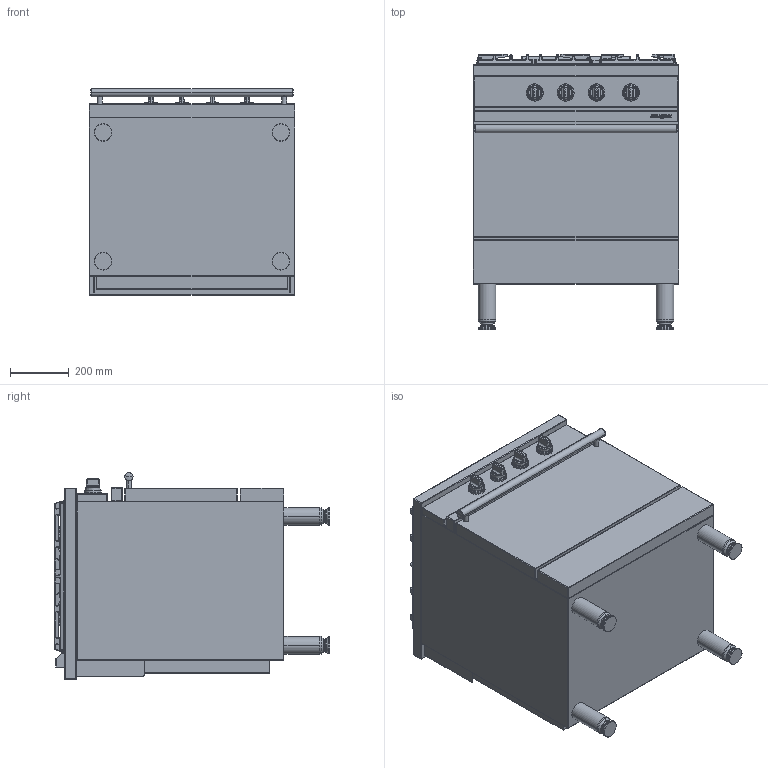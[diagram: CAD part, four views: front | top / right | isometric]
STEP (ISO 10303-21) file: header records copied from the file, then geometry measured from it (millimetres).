
FILE_DESCRIPTION((''),'2;1');
FILE_NAME('CG731_EXPORT_STEP_ASM','2017-11-22T',('r.avril'),(''),'PRO/ENGINEER BY PARAMETRIC TECHNOLOGY CORPORATION, 2014200','PRO/ENGINEER BY PARAMETRIC TECHNOLOGY CORPORATION, 2014200','');
FILE_SCHEMA(('AP203_CONFIGURATION_CONTROLLED_3D_DESIGN_OF_MECHANICAL_PARTS_AND_ASSEMBLIES_MIM_LF { 1 0 10303 403 2 1 2 }'));
Products named in the file (13): FOURNEAUX_AMB_700_EXPORT_STEP; TABLE_700_CLASSIQUE_3F; 5KW; 1_5KW; 3KW; 6537024; 65149005; 90000487_ASM; 6537025; 90000488_ASM; TABLE_700_CLASSIQUE_3F_ASM; MANETTE_AMB_EXPORT_STEP; CG731_EXPORT_STEP_ASM
Assembly tree (23 placements, depth 4):
  CG731_EXPORT_STEP_ASM
    FOURNEAUX_AMB_700_EXPORT_STEP
    TABLE_700_CLASSIQUE_3F_ASM
      TABLE_700_CLASSIQUE_3F
      5KW
      1_5KW
      3KW
      90000487_ASM
        6537024
        65149005  x4
      90000488_ASM  x2
        6537025
        65149005
    MANETTE_AMB_EXPORT_STEP  x4
Bounding box: 700 x 935 x 703 mm (x, y, z)
Volume: 319102111.3 mm3; surface area: 5892574.4 mm2
Topology: 38 solids, 56 shells, 2782 faces, 7737 edges, 5406 vertices
Faces by surface type: cylinder 819, bspline 788, plane 701, cone 230, torus 116, sphere 108, extrusion 20
Entity records: 98962 total; most frequent: CARTESIAN_POINT 36653, ORIENTED_EDGE 9046, DIRECTION 7912, EDGE_CURVE 4748, PRESENTATION_STYLE_ASSIGNMENT 4293, STYLED_ITEM 4293, CURVE_STYLE 4088, VERTEX_POINT 2948
